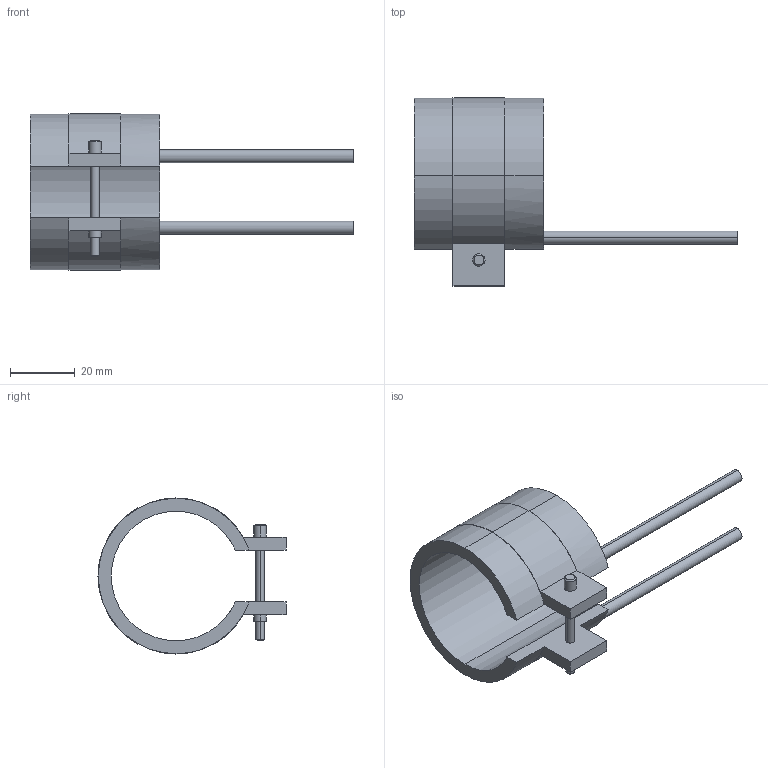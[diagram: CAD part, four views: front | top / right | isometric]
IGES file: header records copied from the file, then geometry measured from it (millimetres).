
Start section: START RECORD GO HERE.
Global section: file name: 14040040.igs; native system: DASSAULT SYSTEMES CATIA V5 R20 - www.3ds.com; preprocessor: CATIA Version 5 Release 20 ; author: Utente; organization: NB04-ASUS; date: 20210331.132912; units: millimetre
Bounding box: 100 x 58.1 x 48.2 mm (x, y, z)
Surface area: 13814.7 mm2 (no closed solid volume)
Topology: 0 solids, 0 shells, 45 faces, 232 edges, 232 vertices
Faces by surface type: revolution 28, plane 17
